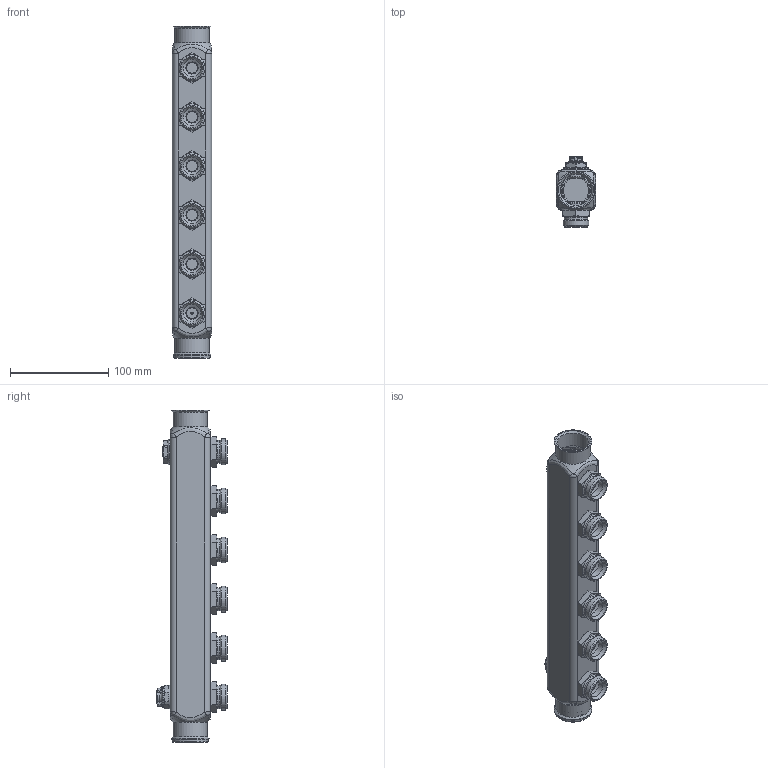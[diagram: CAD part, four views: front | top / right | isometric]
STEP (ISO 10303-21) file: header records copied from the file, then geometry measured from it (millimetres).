
FILE_DESCRIPTION(('STEP AP203'), '1');
FILE_NAME('VTc.505.SQ.060506', '2026-02-20T10:32:35', ('verevichevva'), ('Vesta'), 'C3D Converter', 'C3D Toolkit', '');
FILE_SCHEMA(('CONFIG_CONTROL_DESIGN'));
Length unit declared in the file: millimetre
Products named in the file (1): ВР.622621.187.000 СБ
Bounding box: 40 x 71.6 x 338.5 mm (x, y, z)
Volume: 138585.2 mm3; surface area: 139972.6 mm2
Topology: 21 solids, 21 shells, 906 faces, 2183 edges, 1352 vertices
Faces by surface type: plane 335, cone 166, cylinder 138, extrusion 118, torus 77, bspline 72
Full cylindrical faces by diameter (mm): 1.6 x1, 2.3 x1, 3.4 x1, 4.134 x1, 5 x1, 5.3 x1, 6.3 x2, 9.6 x1, 10.2 x1, 11 x6, 12.5 x6, 13 x1, 14 x1, 15.7 x1, 18 x7, 18.1 x6, 18.5 x1, 19 x8, 19.5 x2, 20 x1, 20.955 x8, 22 x1, 22.2 x8, 23 x1, 23.5 x6, 24 x1, 25.5 x1, 26 x1, 26.441 x6, 28 x1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
Entity records: 36172 total; most frequent: CARTESIAN_POINT 17360, ORIENTED_EDGE 3874, DIRECTION 3351, EDGE_CURVE 1937, VERTEX_POINT 1331, AXIS2_PLACEMENT_3D 1244, EDGE_LOOP 1182, ADVANCED_FACE 897
